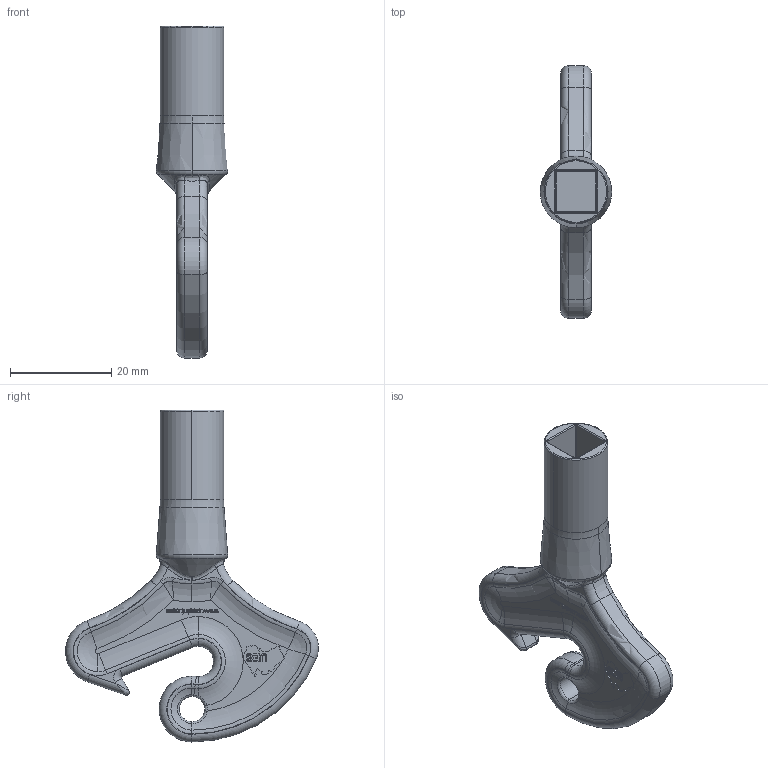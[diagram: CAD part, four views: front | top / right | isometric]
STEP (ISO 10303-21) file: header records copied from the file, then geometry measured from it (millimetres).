
FILE_DESCRIPTION (( 'STEP AP214' ), '1' );
FILE_NAME ('E3K8S.STEP', '2020-11-02T23:23:27', ( '' ), ( '' ), 'SwSTEP 2.0', 'SolidWorks 2018', '' );
FILE_SCHEMA (( 'AUTOMOTIVE_DESIGN' ));
Length unit declared in the file: millimetre
Products named in the file (1): E3K8S
Bounding box: 14.11 x 49.97 x 65.6 mm (x, y, z)
Volume: 8172.4 mm3; surface area: 4553 mm2
Topology: 1 solids, 1 shells, 486 faces, 1289 edges, 812 vertices
Faces by surface type: plane 232, bspline 122, torus 84, cylinder 40, cone 4, sphere 4
Entity records: 21341 total; most frequent: CARTESIAN_POINT 10048, ORIENTED_EDGE 2554, DIRECTION 1996, EDGE_CURVE 1277, VERTEX_POINT 812, VECTOR 748, LINE 748, AXIS2_PLACEMENT_3D 624
